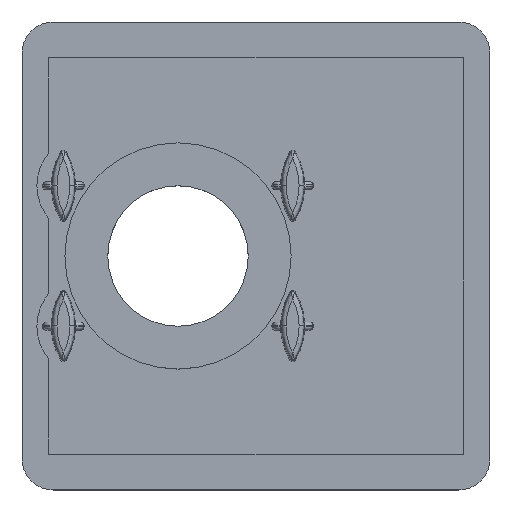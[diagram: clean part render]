
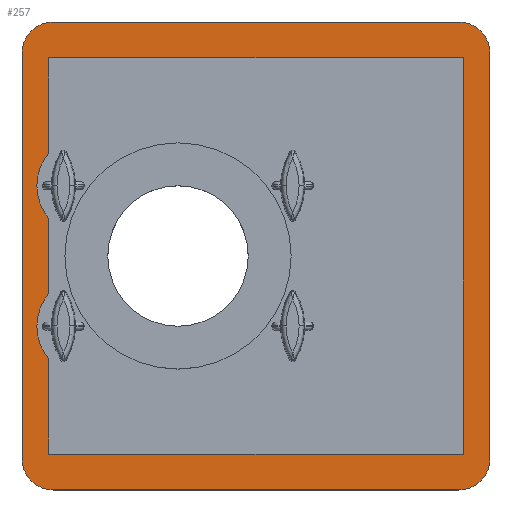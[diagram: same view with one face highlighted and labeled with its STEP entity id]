
A CAD part, top view. The second image highlights one B-rep face of the part: STEP entity #257.
In plain terms, the highlighted planar face has unit normal (0, 0, 1).
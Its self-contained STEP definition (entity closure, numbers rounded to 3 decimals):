
#257=ADVANCED_FACE('NONE',(#657,#658),#659,.F.);
#657=FACE_OUTER_BOUND('',#1195,.T.);
#658=FACE_BOUND('',#1196,.T.);
#659=PLANE('',#1197);
#1195=EDGE_LOOP('',(#4463,#4464,#4465,#4466,#4467,#4468,#4469,#4470));
#1196=EDGE_LOOP('',(#4471,#4472,#4473,#4474,#4475,#4476,#4477,#4478,#4479,#4480));
#1197=AXIS2_PLACEMENT_3D('',#4481,#4482,#4483);
#4463=ORIENTED_EDGE('',*,*,#5863,.T.);
#4464=ORIENTED_EDGE('',*,*,#5866,.T.);
#4465=ORIENTED_EDGE('',*,*,#5846,.T.);
#4466=ORIENTED_EDGE('',*,*,#5867,.T.);
#4467=ORIENTED_EDGE('',*,*,#5851,.T.);
#4468=ORIENTED_EDGE('',*,*,#5868,.T.);
#4469=ORIENTED_EDGE('',*,*,#5858,.T.);
#4470=ORIENTED_EDGE('',*,*,#5869,.T.);
#4471=ORIENTED_EDGE('',*,*,#5678,.F.);
#4472=ORIENTED_EDGE('',*,*,#5870,.F.);
#4473=ORIENTED_EDGE('',*,*,#5871,.F.);
#4474=ORIENTED_EDGE('',*,*,#5872,.F.);
#4475=ORIENTED_EDGE('',*,*,#5873,.F.);
#4476=ORIENTED_EDGE('',*,*,#5874,.F.);
#4477=ORIENTED_EDGE('',*,*,#5875,.F.);
#4478=ORIENTED_EDGE('',*,*,#5683,.F.);
#4479=ORIENTED_EDGE('',*,*,#5876,.F.);
#4480=ORIENTED_EDGE('',*,*,#5877,.F.);
#4481=CARTESIAN_POINT('',(0.0,0.0,3.0));
#4482=DIRECTION('',(0.0,0.0,-1.0));
#4483=DIRECTION('',(0.0,-1.0,0.0));
#5678=EDGE_CURVE('NONE',#6305,#6301,#6307,.T.);
#5683=EDGE_CURVE('NONE',#6314,#6310,#6316,.T.);
#5846=EDGE_CURVE('NONE',#6597,#6598,#6599,.T.);
#5851=EDGE_CURVE('NONE',#6606,#6607,#6608,.T.);
#5858=EDGE_CURVE('NONE',#6620,#6618,#6621,.T.);
#5863=EDGE_CURVE('NONE',#6629,#6627,#6630,.T.);
#5866=EDGE_CURVE('NONE',#6627,#6597,#6633,.T.);
#5867=EDGE_CURVE('NONE',#6598,#6606,#6634,.T.);
#5868=EDGE_CURVE('NONE',#6607,#6620,#6635,.T.);
#5869=EDGE_CURVE('NONE',#6618,#6629,#6636,.T.);
#5870=EDGE_CURVE('NONE',#6637,#6305,#6638,.T.);
#5871=EDGE_CURVE('NONE',#6639,#6637,#6640,.T.);
#5872=EDGE_CURVE('NONE',#6641,#6639,#6642,.T.);
#5873=EDGE_CURVE('NONE',#6643,#6641,#6644,.T.);
#5874=EDGE_CURVE('NONE',#6645,#6643,#6646,.T.);
#5875=EDGE_CURVE('NONE',#6310,#6645,#6647,.T.);
#5876=EDGE_CURVE('NONE',#6648,#6314,#6649,.T.);
#5877=EDGE_CURVE('NONE',#6301,#6648,#6650,.T.);
#6301=VERTEX_POINT('',#7256);
#6305=VERTEX_POINT('NONE',#7261);
#6307=CIRCLE('',#7264,3.25);
#6310=VERTEX_POINT('',#7267);
#6314=VERTEX_POINT('NONE',#7272);
#6316=CIRCLE('',#7275,3.25);
#6597=VERTEX_POINT('NONE',#7928);
#6598=VERTEX_POINT('NONE',#7929);
#6599=LINE('',#7930,#7931);
#6606=VERTEX_POINT('NONE',#7941);
#6607=VERTEX_POINT('NONE',#7942);
#6608=LINE('',#7943,#7944);
#6618=VERTEX_POINT('NONE',#7958);
#6620=VERTEX_POINT('NONE',#7961);
#6621=LINE('',#7962,#7963);
#6627=VERTEX_POINT('NONE',#7971);
#6629=VERTEX_POINT('NONE',#7974);
#6630=LINE('',#7975,#7976);
#6633=CIRCLE('',#7980,2.0);
#6634=CIRCLE('',#7981,2.0);
#6635=CIRCLE('',#7982,2.0);
#6636=CIRCLE('',#7983,2.0);
#6637=VERTEX_POINT('NONE',#7984);
#6638=LINE('',#7985,#7986);
#6639=VERTEX_POINT('NONE',#7987);
#6640=LINE('',#7988,#7989);
#6641=VERTEX_POINT('NONE',#7990);
#6642=LINE('',#7991,#7992);
#6643=VERTEX_POINT('NONE',#7993);
#6644=LINE('',#7994,#7995);
#6645=VERTEX_POINT('NONE',#7996);
#6646=LINE('',#7997,#7998);
#6647=CIRCLE('',#7999,3.25);
#6648=VERTEX_POINT('NONE',#8000);
#6649=LINE('',#8001,#8002);
#6650=CIRCLE('',#8003,3.25);
#7256=CARTESIAN_POINT('',(-14.046,4.5,3.0));
#7261=CARTESIAN_POINT('',(-13.3,6.571,3.0));
#7264=AXIS2_PLACEMENT_3D('',#8820,#8821,#8822);
#7267=CARTESIAN_POINT('',(-14.046,-4.5,3.0));
#7272=CARTESIAN_POINT('',(-13.3,-2.429,3.0));
#7275=AXIS2_PLACEMENT_3D('',#8828,#8829,#8830);
#7928=CARTESIAN_POINT('',(15.0,-13.0,3.0));
#7929=CARTESIAN_POINT('',(15.0,13.0,3.0));
#7930=CARTESIAN_POINT('',(15.0,-15.0,3.0));
#7931=VECTOR('',#9043,1000.0);
#7941=CARTESIAN_POINT('',(13.0,15.0,3.0));
#7942=CARTESIAN_POINT('',(-13.0,15.0,3.0));
#7943=CARTESIAN_POINT('',(-15.0,15.0,3.0));
#7944=VECTOR('',#9047,1000.0);
#7958=CARTESIAN_POINT('',(-15.0,-13.0,3.0));
#7961=CARTESIAN_POINT('',(-15.0,13.0,3.0));
#7962=CARTESIAN_POINT('',(-15.0,-15.0,3.0));
#7963=VECTOR('',#9053,1000.0);
#7971=CARTESIAN_POINT('',(13.0,-15.0,3.0));
#7974=CARTESIAN_POINT('',(-13.0,-15.0,3.0));
#7975=CARTESIAN_POINT('',(-15.0,-15.0,3.0));
#7976=VECTOR('',#9057,1000.0);
#7980=AXIS2_PLACEMENT_3D('',#9059,#9060,#9061);
#7981=AXIS2_PLACEMENT_3D('',#9062,#9063,#9064);
#7982=AXIS2_PLACEMENT_3D('',#9065,#9066,#9067);
#7983=AXIS2_PLACEMENT_3D('',#9068,#9069,#9070);
#7984=CARTESIAN_POINT('',(-13.3,12.7,3.0));
#7985=CARTESIAN_POINT('',(-13.3,6.571,3.0));
#7986=VECTOR('',#9071,1000.0);
#7987=CARTESIAN_POINT('',(13.3,12.7,3.0));
#7988=CARTESIAN_POINT('',(13.3,12.7,3.0));
#7989=VECTOR('',#9072,1000.0);
#7990=CARTESIAN_POINT('',(13.3,-12.7,3.0));
#7991=CARTESIAN_POINT('',(13.3,-12.7,3.0));
#7992=VECTOR('',#9073,1000.0);
#7993=CARTESIAN_POINT('',(-13.3,-12.7,3.0));
#7994=CARTESIAN_POINT('',(13.3,-12.7,3.0));
#7995=VECTOR('',#9074,1000.0);
#7996=CARTESIAN_POINT('',(-13.3,-6.571,3.0));
#7997=CARTESIAN_POINT('',(-13.3,-12.7,3.0));
#7998=VECTOR('',#9075,1000.0);
#7999=AXIS2_PLACEMENT_3D('',#9076,#9077,#9078);
#8000=CARTESIAN_POINT('',(-13.3,2.429,3.0));
#8001=CARTESIAN_POINT('',(-13.3,-2.429,3.0));
#8002=VECTOR('',#9079,1000.0);
#8003=AXIS2_PLACEMENT_3D('',#9080,#9081,#9082);
#8820=CARTESIAN_POINT('',(-10.796,4.5,3.0));
#8821=DIRECTION('',(0.0,0.0,1.0));
#8822=DIRECTION('',(1.0,0.0,0.0));
#8828=CARTESIAN_POINT('',(-10.796,-4.5,3.0));
#8829=DIRECTION('',(0.0,0.0,1.0));
#8830=DIRECTION('',(1.0,0.0,0.0));
#9043=DIRECTION('',(0.0,1.0,0.0));
#9047=DIRECTION('',(-1.0,-0.0,-0.0));
#9053=DIRECTION('',(-0.0,-1.0,-0.0));
#9057=DIRECTION('',(1.0,0.0,0.0));
#9059=CARTESIAN_POINT('',(13.0,-13.0,3.0));
#9060=DIRECTION('',(0.0,0.0,1.0));
#9061=DIRECTION('',(-1.0,0.0,0.0));
#9062=CARTESIAN_POINT('',(13.0,13.0,3.0));
#9063=DIRECTION('',(0.0,0.0,1.0));
#9064=DIRECTION('',(-1.0,0.0,0.0));
#9065=CARTESIAN_POINT('',(-13.0,13.0,3.0));
#9066=DIRECTION('',(0.0,0.0,1.0));
#9067=DIRECTION('',(-1.0,0.0,0.0));
#9068=CARTESIAN_POINT('',(-13.0,-13.0,3.0));
#9069=DIRECTION('',(0.0,0.0,1.0));
#9070=DIRECTION('',(-1.0,0.0,0.0));
#9071=DIRECTION('',(-0.0,-1.0,-0.0));
#9072=DIRECTION('',(-1.0,0.0,0.0));
#9073=DIRECTION('',(0.0,1.0,0.0));
#9074=DIRECTION('',(1.0,-0.0,-0.0));
#9075=DIRECTION('',(-0.0,-1.0,-0.0));
#9076=CARTESIAN_POINT('',(-10.796,-4.5,3.0));
#9077=DIRECTION('',(0.0,0.0,1.0));
#9078=DIRECTION('',(1.0,0.0,0.0));
#9079=DIRECTION('',(-0.0,-1.0,-0.0));
#9080=CARTESIAN_POINT('',(-10.796,4.5,3.0));
#9081=DIRECTION('',(0.0,0.0,1.0));
#9082=DIRECTION('',(1.0,0.0,0.0));
